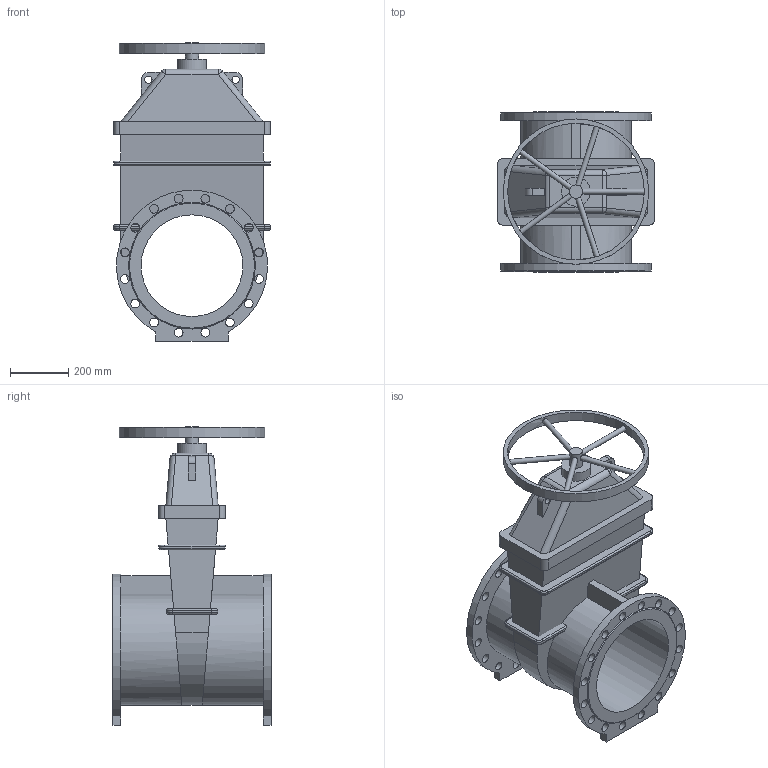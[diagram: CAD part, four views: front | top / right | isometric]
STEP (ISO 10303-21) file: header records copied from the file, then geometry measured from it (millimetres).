
FILE_DESCRIPTION(('STEP AP203'), '1');
FILE_NAME('Çàäâèæêà 47GV DN350 PN10_PN16_L550_W500 ñ ìàõîâèêîì', '', ('UNSPECIFIED'), ('UNSPECIFIED'), 'ASCON STEP Converter 1.6', 'ASCON Math Kernel', '');
FILE_SCHEMA(('CONFIG_CONTROL_DESIGN'));
Length unit declared in the file: millimetre
Bounding box: 540 x 550 x 1027 mm (x, y, z)
Volume: 59580193.8 mm3; surface area: 2940995.7 mm2
Topology: 1 solids, 1 shells, 210 faces, 536 edges, 332 vertices
Faces by surface type: cylinder 99, plane 89, bspline 14, torus 6, cone 2
Full cylindrical faces by diameter (mm): 18 x5, 25 x2, 30 x32, 45 x1, 100 x1, 350 x1, 470 x1, 500 x1
Entity records: 10466 total; most frequent: CARTESIAN_POINT 3795, DIRECTION 985, ORIENTED_EDGE 970, EDGE_CURVE 485, AXIS2_PLACEMENT_3D 373, EDGE_LOOP 353, VERTEX_POINT 332, FACE_BOUND 262
